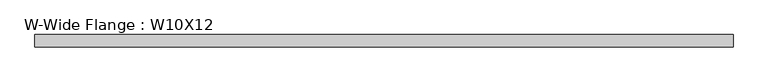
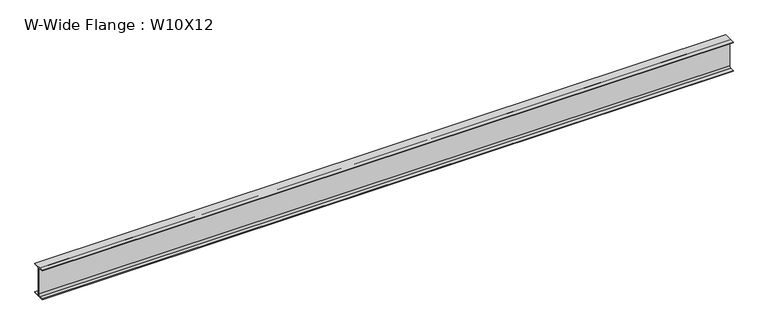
"""IFC4 building model written with IfcOpenShell, lengths in millimetres: beam geometry, W-Wide Flange : W10X12."""

from ifc_helpers import new_model, si_unit, point, frame, frame_2d, origin, place, context, project, spatial, polyline, circle_curve, trimmed, segment, composite_curve, outline, extrude, source, transform, mapped, element, save


def w_wide_flange_w10x12_987685fe(model_context):
    return source(origin(), model_context, "Body", "SweptSolid", [
        extrude(outline(composite_curve([segment(polyline([(50.292, -120.015), (50.292, -125.349), (-50.292, -125.349), (-50.292, -120.015), (-16.129, -120.015)]), True, "CONTINUOUS"), segment(trimmed(circle_curve(frame_2d((-16.129, -106.299)), 13.716), [point((-16.129, -120.015))], [point((-2.413, -106.299))], True, "CARTESIAN"), True, "CONTINUOUS"), segment(polyline([(-2.413, -106.299), (-2.413, 106.299)]), True, "CONTINUOUS"), segment(trimmed(circle_curve(frame_2d((-16.129, 106.299)), 13.716), [point((-2.413, 106.299))], [point((-16.129, 120.015))], True, "CARTESIAN"), True, "CONTINUOUS"), segment(polyline([(-16.129, 120.015), (-50.292, 120.015), (-50.292, 125.349), (50.292, 125.349), (50.292, 120.015), (16.129, 120.015)]), True, "CONTINUOUS"), segment(trimmed(circle_curve(frame_2d((16.129, 106.299)), 13.716), [point((16.129, 120.015))], [point((2.413, 106.299))], True, "CARTESIAN"), True, "CONTINUOUS"), segment(polyline([(2.413, 106.299), (2.413, -106.299)]), True, "CONTINUOUS"), segment(trimmed(circle_curve(frame_2d((16.129, -106.299)), 13.716), [point((2.413, -106.299))], [point((16.129, -120.015))], True, "CARTESIAN"), True, "CONTINUOUS"), segment(polyline([(16.129, -120.015), (50.292, -120.015)]), True, "CONTINUOUS")], self_intersect=False)), frame((-2792.9922862, 0.0, 0.0), z_axis=(1.0, 0.0, 0.0), x_axis=(0.0, 1.0, 0.0)), (0.0, 0.0, 1.0), 5602.2875),
    ])


if __name__ == "__main__":
    model = new_model("IFC4")
    model_context = context("Model", 3, world=origin())
    ifc_project = project(units=[si_unit("LENGTHUNIT", "METRE", prefix="MILLI")], contexts=[model_context])
    site = spatial("IfcSite", under=ifc_project)
    building = spatial("IfcBuilding", under=site)
    placement = place(None, origin())
    w_wide_flange_w10x12_shape = w_wide_flange_w10x12_987685fe(model_context)
    element("IfcBeam", 1, ObjectType="W-Wide Flange : W10X12", at=placement, inside=building, context=model_context, shape_type="MappedRepresentation", body=[
        mapped(w_wide_flange_w10x12_shape, transform((0.0, 0.0, 0.0), x_axis=(1.0, 0.0, 0.0), y_axis=(0.0, 1.0, 0.0), z_axis=(0.0, 0.0, 1.0))),
    ])
    save(model, "model.ifc")
